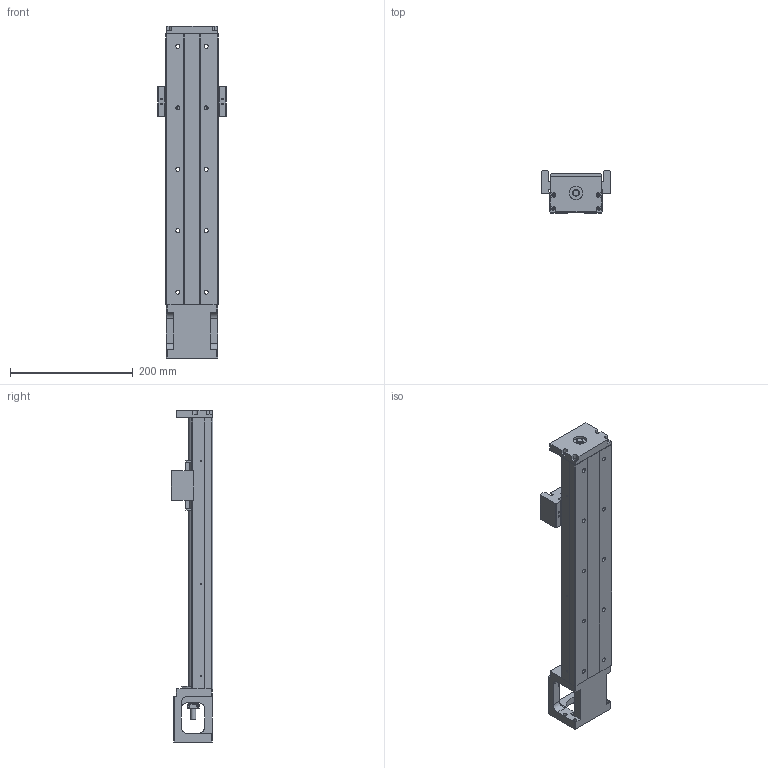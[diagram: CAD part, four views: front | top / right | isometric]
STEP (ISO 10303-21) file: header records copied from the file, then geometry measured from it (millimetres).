
FILE_DESCRIPTION(/* description */ (''),/* implementation_level */ '2;1');
FILE_NAME(/* name */ '46S-440.stp',/* time_stamp */ '2016-12-20T14:04:50+08:00',/* author */ (''),/* organization */ (''),/* preprocessor_version */ 'ST-DEVELOPER v11',/* originating_system */ 'SIEMENS UGS NX 6.0',/* authorisation */ '');
FILE_SCHEMA (('AUTOMOTIVE_DESIGN { 1 0 10303 214 1 1 1 1 }'));
Length unit declared in the file: millimetre
Products named in the file (1): model4
Bounding box: 112 x 68 x 540 mm (x, y, z)
Volume: 1241675.5 mm3; surface area: 273403.6 mm2
Topology: 6 solids, 17 shells, 667 faces, 1742 edges, 1152 vertices
Faces by surface type: plane 323, cylinder 234, cone 55, bspline 47, torus 8
Full cylindrical faces by diameter (mm): 2 x2, 2.11 x2, 2.15 x6, 2.42 x6, 2.5 x4, 3 x4, 3.2 x4, 3.3 x12, 3.4 x8, 4 x2, 4.2 x4, 4.5 x8, 5 x8, 6 x8, 6.35 x2, 6.6 x10, 6.7 x2, 8 x1, 8.7 x4, 9.6 x1, 10 x3, 11 x10, 12 x1, 14.95 x2, 15 x1, 16 x2, 22 x3, 27.5 x1, 44 x1, 50 x1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
Entity records: 30700 total; most frequent: CARTESIAN_POINT 13061, ORIENTED_EDGE 3004, DIRECTION 2901, EDGE_CURVE 1502, VERTEX_POINT 1082, AXIS2_PLACEMENT_3D 1073, EDGE_LOOP 938, LINE 755
